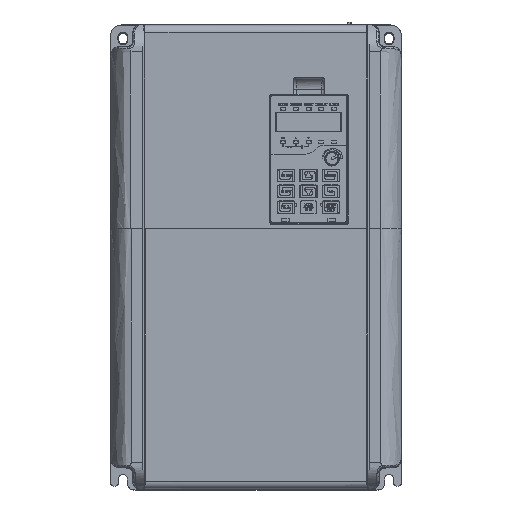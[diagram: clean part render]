
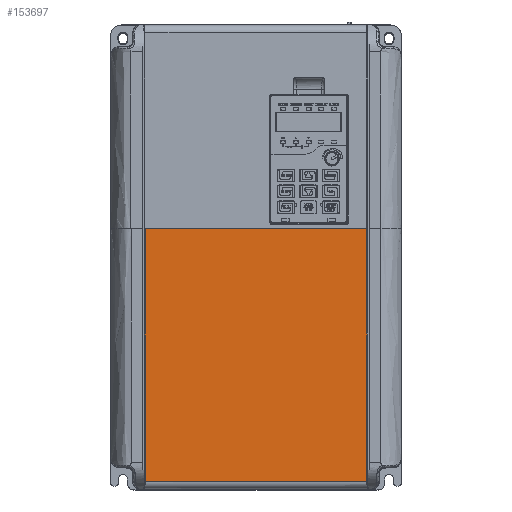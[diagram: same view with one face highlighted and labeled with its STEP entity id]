
A CAD part, top view. The second image highlights one B-rep face of the part: STEP entity #153697.
In plain terms, the highlighted planar face has unit normal (0, 0, 1).
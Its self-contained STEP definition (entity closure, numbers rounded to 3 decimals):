
#1768 = CARTESIAN_POINT ( 'NONE',  ( -85.923, 21.849, 223.678 ) ) ;
#2408 = VECTOR ( 'NONE', #58506, 1000. ) ;
#9128 = VECTOR ( 'NONE', #141063, 1000. ) ;
#10430 = ORIENTED_EDGE ( 'NONE', *, *, #206500, .T. ) ;
#11087 = LINE ( 'NONE', #33062, #110311 ) ;
#27104 = FACE_OUTER_BOUND ( 'NONE', #144000, .T. ) ;
#27147 = ORIENTED_EDGE ( 'NONE', *, *, #196840, .T. ) ;
#27605 = CARTESIAN_POINT ( 'NONE',  ( 103.397, 21.849, 223.678 ) ) ;
#33062 = CARTESIAN_POINT ( 'NONE',  ( 103.397, 21.848, 223.678 ) ) ;
#34031 = VERTEX_POINT ( 'NONE', #1768 ) ;
#35825 = VERTEX_POINT ( 'NONE', #185089 ) ;
#46100 = DIRECTION ( 'NONE',  ( 0., 1., 0. ) ) ;
#46340 = VECTOR ( 'NONE', #46100, 1000. ) ;
#51700 = CARTESIAN_POINT ( 'NONE',  ( -85.923, 156.215, 223.678 ) ) ;
#58506 = DIRECTION ( 'NONE',  ( 1., 0., 0. ) ) ;
#59769 = CARTESIAN_POINT ( 'NONE',  ( 103.397, 156.215, 223.678 ) ) ;
#59811 = CARTESIAN_POINT ( 'NONE',  ( 85.923, 156.215, 223.678 ) ) ;
#60549 = EDGE_CURVE ( 'NONE', #183306, #35825, #198410, .T. ) ;
#65636 = DIRECTION ( 'NONE',  ( -1., 0., 0. ) ) ;
#71323 = ORIENTED_EDGE ( 'NONE', *, *, #168626, .T. ) ;
#83190 = DIRECTION ( 'NONE',  ( 0., -1., 0. ) ) ;
#88953 = CARTESIAN_POINT ( 'NONE',  ( 103.397, -173.668, 223.678 ) ) ;
#110311 = VECTOR ( 'NONE', #65636, 1000. ) ;
#119147 = VERTEX_POINT ( 'NONE', #119906 ) ;
#119319 = VERTEX_POINT ( 'NONE', #175514 ) ;
#119906 = CARTESIAN_POINT ( 'NONE',  ( 74.21, 21.848, 223.678 ) ) ;
#123826 = DIRECTION ( 'NONE',  ( -1., 0., 0. ) ) ;
#126956 = ORIENTED_EDGE ( 'NONE', *, *, #136715, .T. ) ;
#136715 = EDGE_CURVE ( 'NONE', #35825, #119319, #201763, .T. ) ;
#137669 = ORIENTED_EDGE ( 'NONE', *, *, #60549, .T. ) ;
#139545 = PLANE ( 'NONE',  #177540 ) ;
#141063 = DIRECTION ( 'NONE',  ( -1., 0., 0. ) ) ;
#144000 = EDGE_LOOP ( 'NONE', ( #27147, #137669, #126956, #10430, #71323 ) ) ;
#153697 = ADVANCED_FACE ( 'NONE', ( #27104 ), #139545, .T. ) ;
#154796 = LINE ( 'NONE', #27605, #9128 ) ;
#160093 = VECTOR ( 'NONE', #83190, 1000. ) ;
#168626 = EDGE_CURVE ( 'NONE', #119147, #34031, #154796, .T. ) ;
#175514 = CARTESIAN_POINT ( 'NONE',  ( 85.923, 21.848, 223.678 ) ) ;
#177540 = AXIS2_PLACEMENT_3D ( 'NONE', #59769, #205899, #123826 ) ;
#183306 = VERTEX_POINT ( 'NONE', #188742 ) ;
#185089 = CARTESIAN_POINT ( 'NONE',  ( 85.923, -173.668, 223.678 ) ) ;
#188742 = CARTESIAN_POINT ( 'NONE',  ( -85.923, -173.668, 223.678 ) ) ;
#196840 = EDGE_CURVE ( 'NONE', #34031, #183306, #207388, .T. ) ;
#198410 = LINE ( 'NONE', #88953, #2408 ) ;
#201763 = LINE ( 'NONE', #59811, #46340 ) ;
#205899 = DIRECTION ( 'NONE',  ( 0., 0., 1. ) ) ;
#206500 = EDGE_CURVE ( 'NONE', #119319, #119147, #11087, .T. ) ;
#207388 = LINE ( 'NONE', #51700, #160093 ) ;
